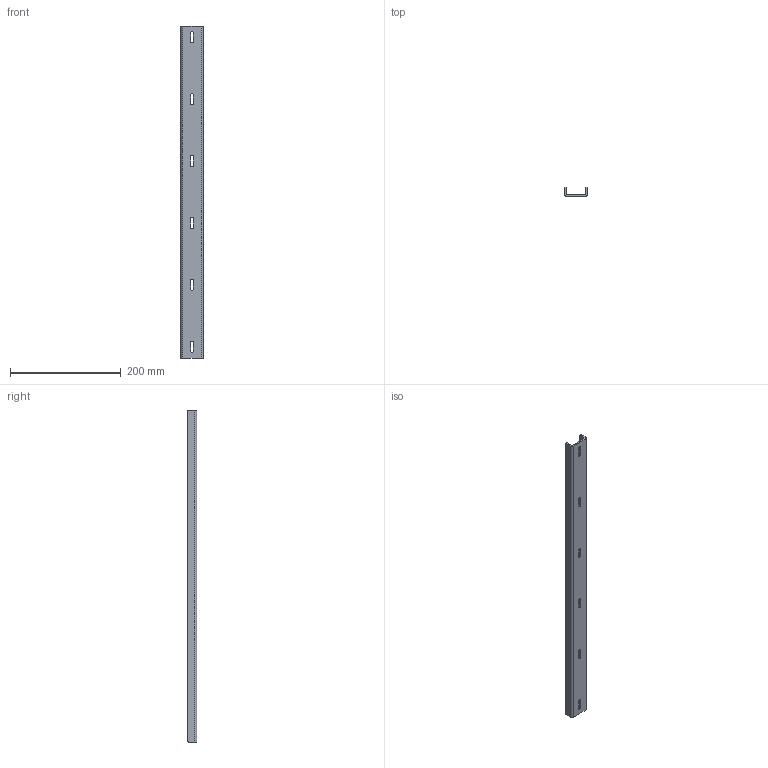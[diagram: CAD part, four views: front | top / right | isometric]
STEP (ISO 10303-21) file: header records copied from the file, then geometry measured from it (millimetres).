
FILE_DESCRIPTION (( 'STEP AP214' ), '1' );
FILE_NAME ('E441-600.STEP', '2022-05-20T09:25:31', ( '' ), ( '' ), 'SwSTEP 2.0', 'SolidWorks 2019', '' );
FILE_SCHEMA (( 'AUTOMOTIVE_DESIGN' ));
Length unit declared in the file: millimetre
Products named in the file (1): E441-600
Bounding box: 40 x 17 x 600 mm (x, y, z)
Volume: 117587.5 mm3; surface area: 83291.6 mm2
Topology: 1 solids, 1 shells, 94 faces, 264 edges, 176 vertices
Faces by surface type: plane 64, cylinder 26, bspline 4
Entity records: 3144 total; most frequent: CARTESIAN_POINT 635, ORIENTED_EDGE 528, DIRECTION 490, EDGE_CURVE 264, VECTOR 204, LINE 204, VERTEX_POINT 176, AXIS2_PLACEMENT_3D 143
